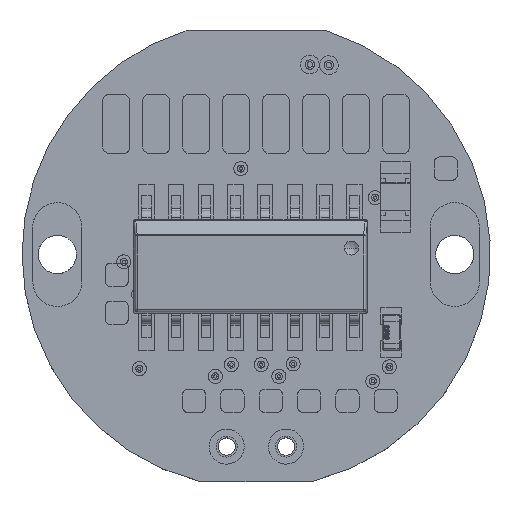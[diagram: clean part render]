
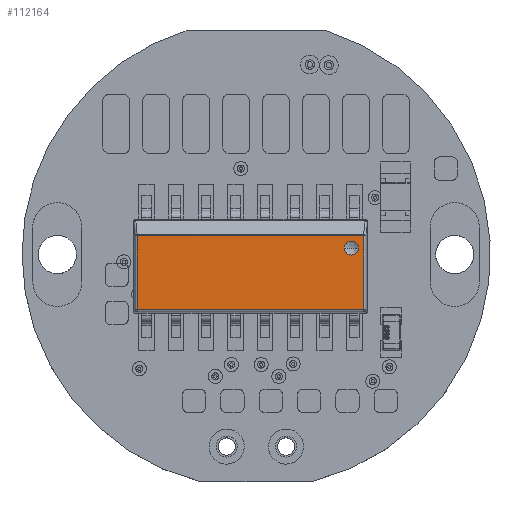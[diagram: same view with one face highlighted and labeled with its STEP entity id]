
A CAD part, top view. The second image highlights one B-rep face of the part: STEP entity #112164.
In plain terms, the highlighted planar face has unit normal (0, 0, 1).
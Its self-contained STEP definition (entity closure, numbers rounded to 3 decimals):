
#3763 = DIRECTION ( 'NONE',  ( 0., -1., 0. ) ) ;
#4580 = CARTESIAN_POINT ( 'NONE',  ( 4.746, 0.796, 1.65 ) ) ;
#7211 = AXIS2_PLACEMENT_3D ( 'NONE', #117624, #40197, #130591 ) ;
#12595 = ORIENTED_EDGE ( 'NONE', *, *, #23625, .T. ) ;
#19063 = FACE_OUTER_BOUND ( 'NONE', #55073, .T. ) ;
#21891 = CARTESIAN_POINT ( 'NONE',  ( 3.766, 0.272, 1.65 ) ) ;
#23625 = EDGE_CURVE ( 'NONE', #75203, #140325, #70225, .T. ) ;
#25477 = CARTESIAN_POINT ( 'NONE',  ( -5.095, -2.359, 1.65 ) ) ;
#28890 = EDGE_CURVE ( 'NONE', #81576, #66340, #138468, .T. ) ;
#30203 = LINE ( 'NONE', #136523, #60547 ) ;
#38159 = DIRECTION ( 'NONE',  ( 0., 0., -1. ) ) ;
#38603 = CARTESIAN_POINT ( 'NONE',  ( 4.746, -2.359, 1.65 ) ) ;
#40197 = DIRECTION ( 'NONE',  ( 0., 0., 1. ) ) ;
#44926 = EDGE_CURVE ( 'NONE', #140325, #75203, #151890, .T. ) ;
#52709 = PLANE ( 'NONE',  #7211 ) ;
#53361 = EDGE_CURVE ( 'NONE', #132478, #66340, #30203, .T. ) ;
#54192 = EDGE_LOOP ( 'NONE', ( #152284, #12595 ) ) ;
#55073 = EDGE_LOOP ( 'NONE', ( #163441, #64586, #60940, #122895 ) ) ;
#60547 = VECTOR ( 'NONE', #149532, 1000. ) ;
#60940 = ORIENTED_EDGE ( 'NONE', *, *, #87500, .F. ) ;
#64586 = ORIENTED_EDGE ( 'NONE', *, *, #78753, .T. ) ;
#66340 = VERTEX_POINT ( 'NONE', #82483 ) ;
#68202 = CARTESIAN_POINT ( 'NONE',  ( 4.587, 1.481, 1.65 ) ) ;
#69698 = VECTOR ( 'NONE', #107487, 1000. ) ;
#69902 = CARTESIAN_POINT ( 'NONE',  ( 4.587, 0.796, 1.65 ) ) ;
#70225 = CIRCLE ( 'NONE', #113778, 0.3 ) ;
#72661 = DIRECTION ( 'NONE',  ( 0., 0., -1. ) ) ;
#75203 = VERTEX_POINT ( 'NONE', #21891 ) ;
#78753 = EDGE_CURVE ( 'NONE', #132478, #145934, #160144, .T. ) ;
#81576 = VERTEX_POINT ( 'NONE', #69902 ) ;
#82483 = CARTESIAN_POINT ( 'NONE',  ( -5.095, 0.796, 1.65 ) ) ;
#87500 = EDGE_CURVE ( 'NONE', #81576, #145934, #128572, .T. ) ;
#90301 = CARTESIAN_POINT ( 'NONE',  ( 4.366, 0.272, 1.65 ) ) ;
#93239 = CARTESIAN_POINT ( 'NONE',  ( 4.587, -2.359, 1.65 ) ) ;
#94240 = VECTOR ( 'NONE', #3763, 1000. ) ;
#107487 = DIRECTION ( 'NONE',  ( -1., 0., 0. ) ) ;
#110474 = AXIS2_PLACEMENT_3D ( 'NONE', #115605, #38159, #128575 ) ;
#112164 = ADVANCED_FACE ( 'NONE', ( #19063, #160613 ), #52709, .T. ) ;
#113778 = AXIS2_PLACEMENT_3D ( 'NONE', #150185, #72661, #163137 ) ;
#115605 = CARTESIAN_POINT ( 'NONE',  ( 4.066, 0.272, 1.65 ) ) ;
#117624 = CARTESIAN_POINT ( 'NONE',  ( 4.746, 1.481, 1.65 ) ) ;
#122895 = ORIENTED_EDGE ( 'NONE', *, *, #28890, .T. ) ;
#125756 = VECTOR ( 'NONE', #142021, 1000. ) ;
#128572 = LINE ( 'NONE', #68202, #94240 ) ;
#128575 = DIRECTION ( 'NONE',  ( -1., 0., 0. ) ) ;
#130591 = DIRECTION ( 'NONE',  ( -1., 0., 0. ) ) ;
#132478 = VERTEX_POINT ( 'NONE', #25477 ) ;
#136523 = CARTESIAN_POINT ( 'NONE',  ( -5.095, 1.481, 1.65 ) ) ;
#138468 = LINE ( 'NONE', #4580, #69698 ) ;
#140325 = VERTEX_POINT ( 'NONE', #90301 ) ;
#142021 = DIRECTION ( 'NONE',  ( 1., 0., 0. ) ) ;
#145934 = VERTEX_POINT ( 'NONE', #93239 ) ;
#149532 = DIRECTION ( 'NONE',  ( 0., 1., 0. ) ) ;
#150185 = CARTESIAN_POINT ( 'NONE',  ( 4.066, 0.272, 1.65 ) ) ;
#151890 = CIRCLE ( 'NONE', #110474, 0.3 ) ;
#152284 = ORIENTED_EDGE ( 'NONE', *, *, #44926, .T. ) ;
#160144 = LINE ( 'NONE', #38603, #125756 ) ;
#160613 = FACE_BOUND ( 'NONE', #54192, .T. ) ;
#163137 = DIRECTION ( 'NONE',  ( -1., 0., 0. ) ) ;
#163441 = ORIENTED_EDGE ( 'NONE', *, *, #53361, .F. ) ;
